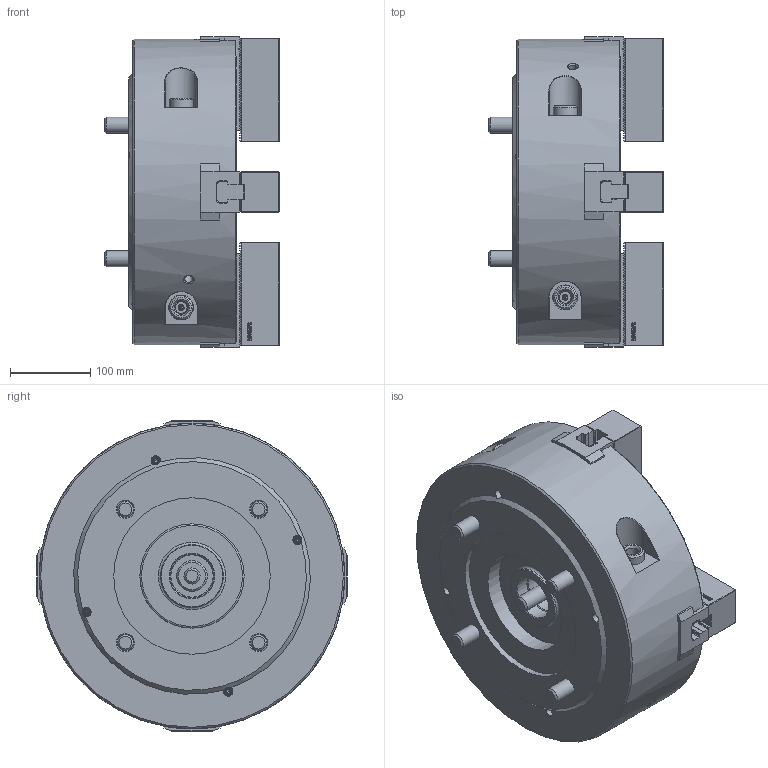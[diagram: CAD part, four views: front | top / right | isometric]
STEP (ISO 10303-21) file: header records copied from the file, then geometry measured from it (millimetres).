
FILE_DESCRIPTION (( 'STEP AP214' ), '1' );
FILE_NAME ('DT1_HW-15_OUTSIDE_VIEW_HUL.STEP', '2024-05-10T01:01:07', ( '' ), ( '' ), 'SwSTEP 2.0', 'SolidWorks 2022', '' );
FILE_SCHEMA (( 'AUTOMOTIVE_DESIGN' ));
Length unit declared in the file: millimetre
Products named in the file (10): DT1_HW-15_M5x10^DT1_HW-15_ﾃﾞﾌｫﾙﾄ; DT1_HW-15_BASE^DT1_HW-15_ﾃﾞﾌｫﾙﾄ; DT1_HW-15_OUTSIDE_VIEW_HUL; DT1_HW-15_M14x40^DT1_HW-15_ﾃﾞﾌｫﾙﾄ; DT1_HW-15_SOFTJAW^DT1_HW-15_ﾃﾞﾌｫﾙﾄ; DT1_HW-15_DRAWSCREW^DT1_HW-15_ﾃﾞﾌｫﾙﾄ; DT1_HW-15_COVER^DT1_HW-15_ﾃﾞﾌｫﾙﾄ; DT1_HW-15_TNUT^DT1_HW-15_ﾃﾞﾌｫﾙﾄ; DT1_HW-15_M20x140^DT1_HW-15_ﾃﾞﾌｫﾙﾄ; DT1_HW-15_DN^DT1_HW-15_ﾃﾞﾌｫﾙﾄ
Assembly tree (28 placements, depth 2):
  DT1_HW-15_OUTSIDE_VIEW_HUL
    DT1_HW-15_SOFTJAW^DT1_HW-15_ﾃﾞﾌｫﾙﾄ  x4
    DT1_HW-15_TNUT^DT1_HW-15_ﾃﾞﾌｫﾙﾄ  x4
    DT1_HW-15_COVER^DT1_HW-15_ﾃﾞﾌｫﾙﾄ
    DT1_HW-15_DRAWSCREW^DT1_HW-15_ﾃﾞﾌｫﾙﾄ
    DT1_HW-15_DN^DT1_HW-15_ﾃﾞﾌｫﾙﾄ
    DT1_HW-15_BASE^DT1_HW-15_ﾃﾞﾌｫﾙﾄ
    DT1_HW-15_M20x140^DT1_HW-15_ﾃﾞﾌｫﾙﾄ  x4
    DT1_HW-15_M14x40^DT1_HW-15_ﾃﾞﾌｫﾙﾄ  x8
    DT1_HW-15_M5x10^DT1_HW-15_ﾃﾞﾌｫﾙﾄ  x4
Bounding box: 218 x 386.37 x 386.37 mm (x, y, z)
Volume: 15516369.1 mm3; surface area: 904516.8 mm2
Topology: 28 solids, 36 shells, 5378 faces, 15262 edges, 10102 vertices
Faces by surface type: plane 3800, cylinder 898, bspline 379, cone 266, torus 31, sphere 4
Full cylindrical faces by diameter (mm): 2 x4, 4.2 x4, 5 x4, 5.5 x4, 6.8 x5, 8.72 x4, 9.5 x4, 10.2 x6, 12 x8, 13.27 x4, 14 x12, 15 x8, 17 x5, 17.5 x1, 20 x6, 21 x4, 21.33 x8, 22 x8, 27 x1, 29.6 x4, 30.33 x4, 31 x5, 32 x4, 38 x1, 52.835 x1, 55 x1, 56 x2, 78 x1, 130 x1, 195 x1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
Entity records: 125006 total; most frequent: CARTESIAN_POINT 34478, ORIENTED_EDGE 19910, DIRECTION 16561, EDGE_CURVE 9955, LINE 7781, VECTOR 7781, VERTEX_POINT 6698, AXIS2_PLACEMENT_3D 4390
